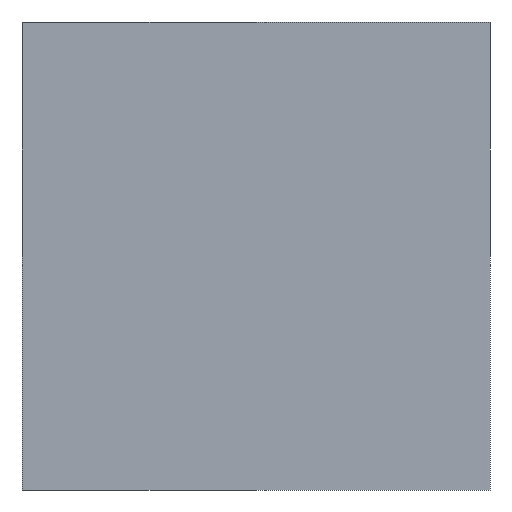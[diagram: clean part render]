
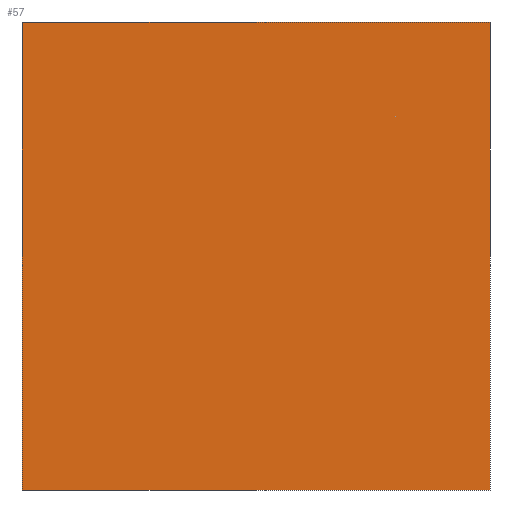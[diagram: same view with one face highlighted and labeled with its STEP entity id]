
A CAD part, front view. The second image highlights one B-rep face of the part: STEP entity #57.
In plain terms, the highlighted planar face has unit normal (0, -1, 0).
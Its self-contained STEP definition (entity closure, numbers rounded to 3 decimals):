
#57 = ADVANCED_FACE( '', ( #113 ), #114, .F. );
#113 = FACE_OUTER_BOUND( '', #162, .T. );
#114 = PLANE( '', #163 );
#162 = EDGE_LOOP( '', ( #252, #253, #254, #255 ) );
#163 = AXIS2_PLACEMENT_3D( '', #256, #257, #258 );
#252 = ORIENTED_EDGE( '', *, *, #309, .F. );
#253 = ORIENTED_EDGE( '', *, *, #301, .F. );
#254 = ORIENTED_EDGE( '', *, *, #276, .F. );
#255 = ORIENTED_EDGE( '', *, *, #310, .F. );
#256 = CARTESIAN_POINT( '', ( 0., -35., 0. ) );
#257 = DIRECTION( '', ( 0., 1., 0. ) );
#258 = DIRECTION( '', ( 0., 0., 1. ) );
#276 = EDGE_CURVE( '', #315, #316, #317, .T. );
#301 = EDGE_CURVE( '', #316, #354, #355, .T. );
#309 = EDGE_CURVE( '', #354, #365, #366, .T. );
#310 = EDGE_CURVE( '', #365, #315, #367, .T. );
#315 = VERTEX_POINT( '', #372 );
#316 = VERTEX_POINT( '', #373 );
#317 = LINE( '', #374, #375 );
#354 = VERTEX_POINT( '', #427 );
#355 = LINE( '', #428, #429 );
#365 = VERTEX_POINT( '', #443 );
#366 = LINE( '', #444, #445 );
#367 = LINE( '', #446, #447 );
#372 = CARTESIAN_POINT( '', ( 12.5, -35., 12.5 ) );
#373 = CARTESIAN_POINT( '', ( 12.5, -35., -12.5 ) );
#374 = CARTESIAN_POINT( '', ( 12.5, -35., 12.5 ) );
#375 = VECTOR( '', #452, 1000. );
#427 = CARTESIAN_POINT( '', ( -12.5, -35., -12.5 ) );
#428 = CARTESIAN_POINT( '', ( 12.5, -35., -12.5 ) );
#429 = VECTOR( '', #474, 1000. );
#443 = CARTESIAN_POINT( '', ( -12.5, -35., 12.5 ) );
#444 = CARTESIAN_POINT( '', ( -12.5, -35., -12.5 ) );
#445 = VECTOR( '', #479, 1000. );
#446 = CARTESIAN_POINT( '', ( -12.5, -35., 12.5 ) );
#447 = VECTOR( '', #480, 1000. );
#452 = DIRECTION( '', ( 0., 0., -1. ) );
#474 = DIRECTION( '', ( -1., 0., 0. ) );
#479 = DIRECTION( '', ( 0., 0., 1. ) );
#480 = DIRECTION( '', ( 1., 0., 0. ) );
